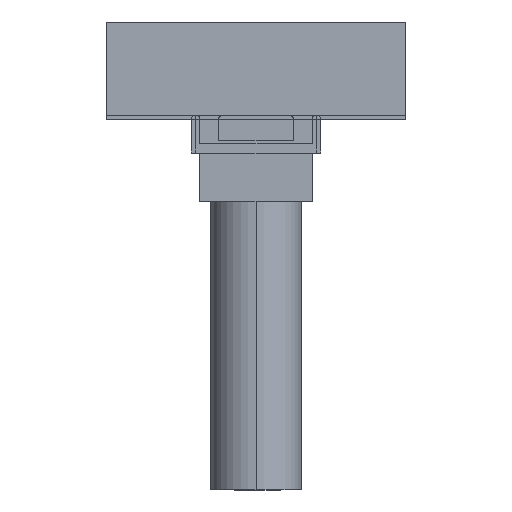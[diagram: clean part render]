
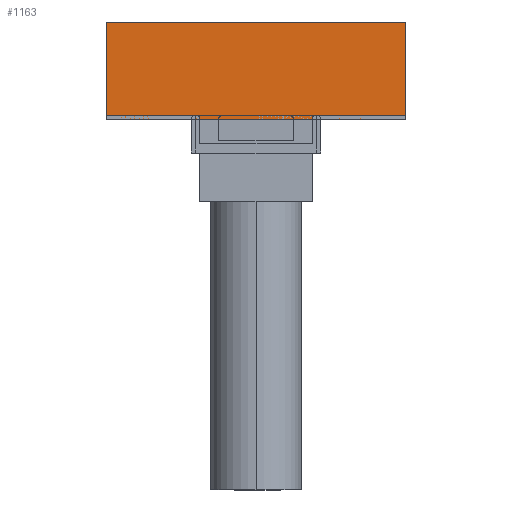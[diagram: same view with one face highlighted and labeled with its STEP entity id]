
A CAD part, left-side view. The second image highlights one B-rep face of the part: STEP entity #1163.
In plain terms, the highlighted planar face has unit normal (-1, 0, 0).
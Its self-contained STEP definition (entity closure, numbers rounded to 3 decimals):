
#71=PLANE('',#1280);
#143=FACE_OUTER_BOUND('',#215,.T.);
#215=EDGE_LOOP('',(#1005,#1006,#1007,#1008));
#323=LINE('',#1834,#463);
#327=LINE('',#1841,#467);
#330=LINE('',#1847,#470);
#332=LINE('',#1850,#472);
#463=VECTOR('',#1508,304.8);
#467=VECTOR('',#1514,304.8);
#470=VECTOR('',#1519,304.8);
#472=VECTOR('',#1523,304.8);
#603=VERTEX_POINT('',#1831);
#604=VERTEX_POINT('',#1833);
#606=VERTEX_POINT('',#1839);
#608=VERTEX_POINT('',#1845);
#739=EDGE_CURVE('',#604,#603,#323,.T.);
#743=EDGE_CURVE('',#603,#606,#327,.T.);
#746=EDGE_CURVE('',#606,#608,#330,.T.);
#748=EDGE_CURVE('',#608,#604,#332,.T.);
#1005=ORIENTED_EDGE('',*,*,#739,.T.);
#1006=ORIENTED_EDGE('',*,*,#743,.T.);
#1007=ORIENTED_EDGE('',*,*,#746,.T.);
#1008=ORIENTED_EDGE('',*,*,#748,.T.);
#1163=ADVANCED_FACE('',(#143),#71,.T.);
#1280=AXIS2_PLACEMENT_3D('',#1851,#1524,#1525);
#1508=DIRECTION('',(0.,1.,0.));
#1514=DIRECTION('',(0.,0.,-1.));
#1519=DIRECTION('',(0.,-1.,0.));
#1523=DIRECTION('',(0.,0.,1.));
#1524=DIRECTION('center_axis',(-1.,0.,0.));
#1525=DIRECTION('ref_axis',(0.,0.,1.));
#1831=CARTESIAN_POINT('',(-500.,80.,50.));
#1833=CARTESIAN_POINT('',(-500.,-80.,50.));
#1834=CARTESIAN_POINT('',(-500.,-80.,50.));
#1839=CARTESIAN_POINT('',(-500.,80.,-2.));
#1841=CARTESIAN_POINT('',(-500.,80.,50.));
#1845=CARTESIAN_POINT('',(-500.,-80.,-2.));
#1847=CARTESIAN_POINT('',(-500.,80.,-2.));
#1850=CARTESIAN_POINT('',(-500.,-80.,-2.));
#1851=CARTESIAN_POINT('Origin',(-500.,-80.,50.));
